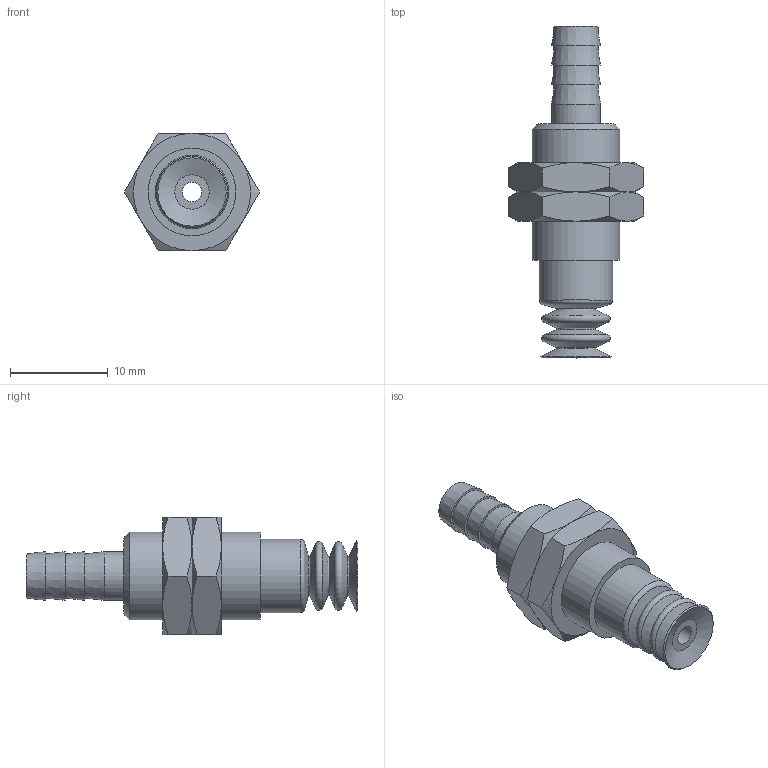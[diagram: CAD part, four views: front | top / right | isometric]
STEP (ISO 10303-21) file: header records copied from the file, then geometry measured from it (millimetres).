
FILE_DESCRIPTION(('STEP AP203'),'1');
FILE_NAME('.stp','2025-04-02T05:38:12',(' '),(' '),'Spatial InterOp 3D',' ',' ');
FILE_SCHEMA(('CONFIG_CONTROL_DESIGN'));
Length unit declared in the file: millimetre
Products named in the file (4): BBPCTK-7-※; Nut PC_K 7; PCTK-7; BPCG-7-※
Assembly tree (4 placements, depth 2):
  BBPCTK-7-※
    Nut PC_K 7  x2
    PCTK-7
    BPCG-7-※
Bounding box: 13.86 x 34 x 12 mm (x, y, z)
Volume: 1670.8 mm3; surface area: 2119.9 mm2
Topology: 4 solids, 4 shells, 93 faces, 180 edges, 103 vertices
Faces by surface type: cone 41, plane 28, torus 13, cylinder 11
Full cylindrical faces by diameter (mm): 2 x1, 2.5 x1, 4 x2, 5 x1, 6 x2, 7.5 x1, 7.917 x2, 9 x1
Entity records: 1944 total; most frequent: CARTESIAN_POINT 483, DIRECTION 282, ORIENTED_EDGE 186, AXIS2_PLACEMENT_3D 138, EDGE_LOOP 122, FACE_OUTER_BOUND 93, EDGE_CURVE 93, VERTEX_POINT 75
